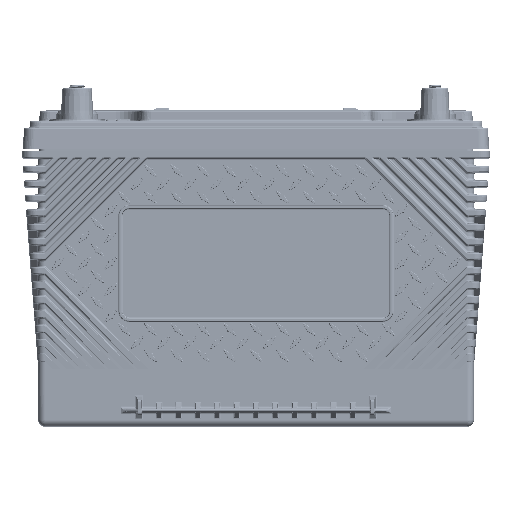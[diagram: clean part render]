
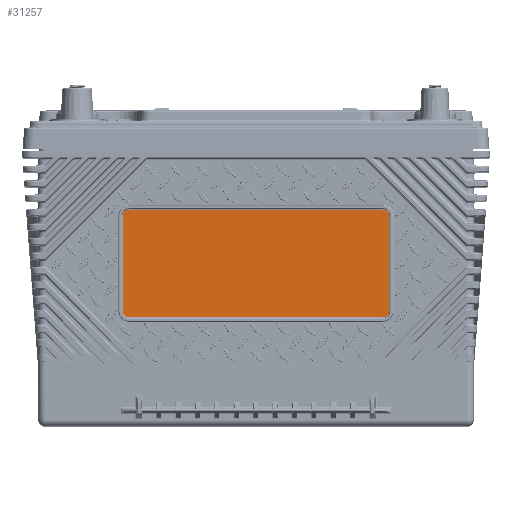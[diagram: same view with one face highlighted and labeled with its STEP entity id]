
A CAD part, top view. The second image highlights one B-rep face of the part: STEP entity #31257.
In plain terms, the highlighted planar face has unit normal (0, -0.001, 1).
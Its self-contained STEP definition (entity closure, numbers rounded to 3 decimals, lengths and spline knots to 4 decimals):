
#3101 = ORIENTED_EDGE ( 'NONE', *, *, #208265, .T. ) ;
#3744 = VERTEX_POINT ( 'NONE', #15976 ) ;
#7102 = AXIS2_PLACEMENT_3D ( 'NONE', #485735, #203394, #402033 ) ;
#15976 = CARTESIAN_POINT ( 'NONE',  ( -2.9365, 5.0135, 3.1338 ) ) ;
#19789 = VECTOR ( 'NONE', #234063, 39.3701 ) ;
#22538 = EDGE_CURVE ( 'NONE', #3744, #120149, #309696, .T. ) ;
#31257 = ADVANCED_FACE ( 'NONE', ( #432135 ), #264916, .T. ) ;
#31302 = DIRECTION ( 'NONE',  ( 0., -0.001, 1. ) ) ;
#36937 = LINE ( 'NONE', #314234, #497322 ) ;
#58288 = CARTESIAN_POINT ( 'NONE',  ( -5.034, 2.5225, 3.1311 ) ) ;
#85981 = DIRECTION ( 'NONE',  ( 0., -0.001, 1. ) ) ;
#89544 = CARTESIAN_POINT ( 'NONE',  ( -3.078, 4.872, 3.1336 ) ) ;
#92486 = LINE ( 'NONE', #58288, #107188 ) ;
#100092 = VERTEX_POINT ( 'NONE', #155026 ) ;
#105647 = ORIENTED_EDGE ( 'NONE', *, *, #254062, .T. ) ;
#107188 = VECTOR ( 'NONE', #207628, 39.3701 ) ;
#115551 = CARTESIAN_POINT ( 'NONE',  ( 3.078, 4.872, 3.1336 ) ) ;
#119423 = CARTESIAN_POINT ( 'NONE',  ( 2.9365, 5.0135, 3.1338 ) ) ;
#120149 = VERTEX_POINT ( 'NONE', #89544 ) ;
#122436 = EDGE_CURVE ( 'NONE', #335311, #393246, #194230, .T. ) ;
#127473 = EDGE_CURVE ( 'NONE', #217628, #235141, #355786, .T. ) ;
#140149 = EDGE_LOOP ( 'NONE', ( #105647, #277495, #469087, #257330, #3101, #482627, #401799, #200543 ) ) ;
#147227 = CARTESIAN_POINT ( 'NONE',  ( -5.034, 0., 3.1285 ) ) ;
#155026 = CARTESIAN_POINT ( 'NONE',  ( 2.9365, 2.5225, 3.1311 ) ) ;
#157308 = DIRECTION ( 'NONE',  ( -1., 0., 0. ) ) ;
#188434 = DIRECTION ( 'NONE',  ( 0., -1., -0.001 ) ) ;
#194230 = CIRCLE ( 'NONE', #261030, 0.1415 ) ;
#200543 = ORIENTED_EDGE ( 'NONE', *, *, #22538, .T. ) ;
#203394 = DIRECTION ( 'NONE',  ( 0., -0.001, 1. ) ) ;
#207628 = DIRECTION ( 'NONE',  ( 1., 0., 0. ) ) ;
#208265 = EDGE_CURVE ( 'NONE', #295307, #217628, #289041, .T. ) ;
#216313 = DIRECTION ( 'NONE',  ( 0., -1., -0.001 ) ) ;
#217628 = VERTEX_POINT ( 'NONE', #115551 ) ;
#220713 = CARTESIAN_POINT ( 'NONE',  ( 3.078, 2.664, 3.1313 ) ) ;
#234063 = DIRECTION ( 'NONE',  ( 0., -1., -0.001 ) ) ;
#235141 = VERTEX_POINT ( 'NONE', #119423 ) ;
#242981 = DIRECTION ( 'NONE',  ( 0., -1., -0.001 ) ) ;
#245562 = CARTESIAN_POINT ( 'NONE',  ( -2.9365, 2.664, 3.1313 ) ) ;
#248512 = AXIS2_PLACEMENT_3D ( 'NONE', #147227, #466300, #390306 ) ;
#254062 = EDGE_CURVE ( 'NONE', #120149, #335311, #482317, .T. ) ;
#257330 = ORIENTED_EDGE ( 'NONE', *, *, #329257, .T. ) ;
#261030 = AXIS2_PLACEMENT_3D ( 'NONE', #245562, #85981, #242981 ) ;
#261725 = CARTESIAN_POINT ( 'NONE',  ( -2.9365, 4.872, 3.1336 ) ) ;
#264916 = PLANE ( 'NONE',  #248512 ) ;
#275835 = CARTESIAN_POINT ( 'NONE',  ( -3.078, 0., 3.1285 ) ) ;
#277495 = ORIENTED_EDGE ( 'NONE', *, *, #122436, .T. ) ;
#289041 = LINE ( 'NONE', #482668, #369943 ) ;
#295307 = VERTEX_POINT ( 'NONE', #220713 ) ;
#299564 = CIRCLE ( 'NONE', #7102, 0.1415 ) ;
#309696 = CIRCLE ( 'NONE', #501637, 0.1415 ) ;
#314234 = CARTESIAN_POINT ( 'NONE',  ( -5.034, 5.0135, 3.1338 ) ) ;
#328313 = DIRECTION ( 'NONE',  ( 0., 1., 0.001 ) ) ;
#329257 = EDGE_CURVE ( 'NONE', #100092, #295307, #299564, .T. ) ;
#335311 = VERTEX_POINT ( 'NONE', #362735 ) ;
#335918 = CARTESIAN_POINT ( 'NONE',  ( -2.9365, 2.5225, 3.1311 ) ) ;
#339594 = EDGE_CURVE ( 'NONE', #235141, #3744, #36937, .T. ) ;
#355786 = CIRCLE ( 'NONE', #455899, 0.1415 ) ;
#362735 = CARTESIAN_POINT ( 'NONE',  ( -3.078, 2.664, 3.1313 ) ) ;
#369943 = VECTOR ( 'NONE', #328313, 39.3701 ) ;
#375831 = DIRECTION ( 'NONE',  ( 0., -0.001, 1. ) ) ;
#390306 = DIRECTION ( 'NONE',  ( 0., -1., -0.001 ) ) ;
#393246 = VERTEX_POINT ( 'NONE', #335918 ) ;
#401799 = ORIENTED_EDGE ( 'NONE', *, *, #339594, .T. ) ;
#402033 = DIRECTION ( 'NONE',  ( 0., -1., -0.001 ) ) ;
#415030 = CARTESIAN_POINT ( 'NONE',  ( 2.9365, 4.872, 3.1336 ) ) ;
#432135 = FACE_OUTER_BOUND ( 'NONE', #140149, .T. ) ;
#455899 = AXIS2_PLACEMENT_3D ( 'NONE', #415030, #375831, #216313 ) ;
#466300 = DIRECTION ( 'NONE',  ( 0., -0.001, 1. ) ) ;
#469087 = ORIENTED_EDGE ( 'NONE', *, *, #506282, .T. ) ;
#482317 = LINE ( 'NONE', #275835, #19789 ) ;
#482627 = ORIENTED_EDGE ( 'NONE', *, *, #127473, .T. ) ;
#482668 = CARTESIAN_POINT ( 'NONE',  ( 3.078, 0., 3.1285 ) ) ;
#485735 = CARTESIAN_POINT ( 'NONE',  ( 2.9365, 2.664, 3.1313 ) ) ;
#497322 = VECTOR ( 'NONE', #157308, 39.3701 ) ;
#501637 = AXIS2_PLACEMENT_3D ( 'NONE', #261725, #31302, #188434 ) ;
#506282 = EDGE_CURVE ( 'NONE', #393246, #100092, #92486, .T. ) ;
